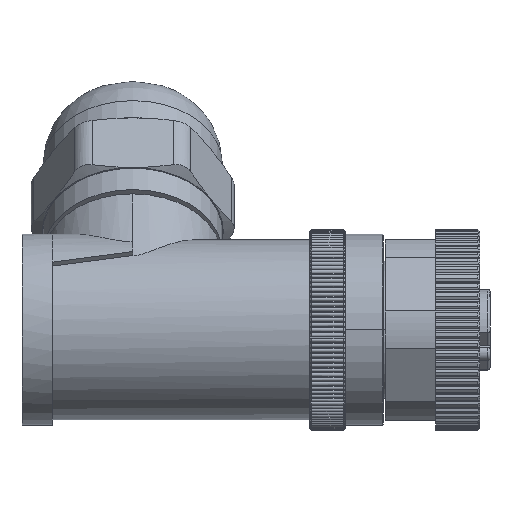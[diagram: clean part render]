
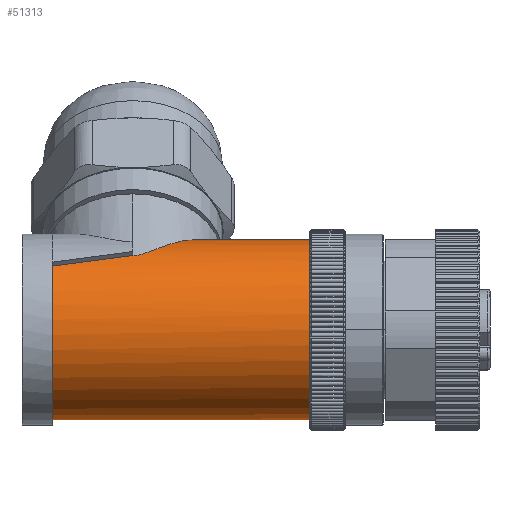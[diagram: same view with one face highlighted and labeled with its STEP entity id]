
A CAD part, left-side view. The second image highlights one B-rep face of the part: STEP entity #51313.
In plain terms, the highlighted cylindrical face has radius 8.95 mm (diameter 17.9 mm), a partial arc.
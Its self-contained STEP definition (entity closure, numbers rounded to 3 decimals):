
#11300=CARTESIAN_POINT('',(0.,16.385,
8.95));
#12212=CARTESIAN_POINT('',(0.,4.9,0.));
#12213=DIRECTION('',(0.,-1.,0.));
#12214=DIRECTION('',(0.,0.,1.));
#12215=AXIS2_PLACEMENT_3D('',#12212,#12213,#12214);
#12217=DIRECTION('',(0.,-1.,0.));
#12218=VECTOR('',#12217,25.6);
#12219=CARTESIAN_POINT('',(0.,30.5,-8.95));
#12220=LINE('',#12219,#12218);
#12221=CARTESIAN_POINT('',(0.,30.5,0.));
#12222=DIRECTION('',(0.,1.,0.));
#12223=DIRECTION('',(0.,0.,-1.));
#12224=AXIS2_PLACEMENT_3D('',#12221,#12222,#12223);
#12226=CARTESIAN_POINT('',(-5.069,22.5,7.376));
#12227=CARTESIAN_POINT('',(-5.524,25.166,
7.063));
#12228=CARTESIAN_POINT('',(-5.944,27.832,
6.713));
#12229=CARTESIAN_POINT('',(-6.329,30.5,6.329));
#12231=CARTESIAN_POINT('',(-5.069,22.5,7.376));
#12232=CARTESIAN_POINT('',(-5.069,22.31,
7.376));
#12233=CARTESIAN_POINT('',(-5.012,21.924,
7.416));
#12234=CARTESIAN_POINT('',(-4.762,21.322,
7.581));
#12235=CARTESIAN_POINT('',(-4.398,20.717,
7.8));
#12236=CARTESIAN_POINT('',(-3.939,20.091,
8.043));
#12237=CARTESIAN_POINT('',(-3.387,19.434,
8.293));
#12238=CARTESIAN_POINT('',(-2.737,18.738,
8.532));
#12239=CARTESIAN_POINT('',(-1.974,17.997,
8.743));
#12240=CARTESIAN_POINT('',(-1.081,17.214,
8.902));
#12241=CARTESIAN_POINT('',(-0.379,16.662,
8.95));
#12242=CARTESIAN_POINT('',(0.,16.385,
8.95));
#12244=DIRECTION('',(0.,-1.,0.));
#12245=VECTOR('',#12244,11.485);
#12246=CARTESIAN_POINT('',(0.,16.385,
8.95));
#12247=LINE('',#12246,#12245);
#37704=VERTEX_POINT('',#11300);
#37711=CARTESIAN_POINT('',(-6.329,30.5,6.329));
#37712=VERTEX_POINT('',#37711);
#37718=CARTESIAN_POINT('',(-5.069,22.5,7.376));
#37720=VERTEX_POINT('',#37718);
#37725=CARTESIAN_POINT('',(0.,30.5,-8.95));
#37726=VERTEX_POINT('',#37725);
#41468=CARTESIAN_POINT('',(0.,4.9,-8.95));
#41469=VERTEX_POINT('',#41468);
#41470=CARTESIAN_POINT('',(0.,4.9,8.95));
#41471=VERTEX_POINT('',#41470);
#51297=CARTESIAN_POINT('',(0.,33.5,0.));
#51298=DIRECTION('',(0.,-1.,0.));
#51299=DIRECTION('',(0.,0.,-1.));
#51300=AXIS2_PLACEMENT_3D('',#51297,#51298,#51299);
#51301=CYLINDRICAL_SURFACE('',#51300,8.95);
#51302=ORIENTED_EDGE('',*,*,#48923,.T.);
#51303=ORIENTED_EDGE('',*,*,#50263,.F.);
#51305=ORIENTED_EDGE('',*,*,#51304,.T.);
#51307=ORIENTED_EDGE('',*,*,#51306,.F.);
#51309=ORIENTED_EDGE('',*,*,#51308,.T.);
#51310=ORIENTED_EDGE('',*,*,#50253,.T.);
#51311=EDGE_LOOP('',(#51302,#51303,#51305,#51307,#51309,#51310));
#51312=FACE_OUTER_BOUND('',#51311,.F.);
#51313=ADVANCED_FACE('',(#51312),#51301,.T.);
#12216=CIRCLE('',#12215,8.95);
#12225=CIRCLE('',#12224,8.95);
#12230=B_SPLINE_CURVE_WITH_KNOTS('',3,(#12226,#12227,#12228,#12229),
.UNSPECIFIED.,.F.,.F.,(4,4),(0.,1.),.UNSPECIFIED.);
#12243=B_SPLINE_CURVE_WITH_KNOTS('',3,(#12231,#12232,#12233,#12234,#12235,
#12236,#12237,#12238,#12239,#12240,#12241,#12242),.UNSPECIFIED.,.F.,.F.,(4,1,1,
1,1,1,1,1,1,4),(0.,0.111,0.222,0.333,
0.444,0.556,0.667,0.778,
0.889,1.),.UNSPECIFIED.);
#48923=EDGE_CURVE('',#41471,#41469,#12216,.T.);
#50253=EDGE_CURVE('',#37704,#41471,#12247,.T.);
#50263=EDGE_CURVE('',#37726,#41469,#12220,.T.);
#51304=EDGE_CURVE('',#37726,#37712,#12225,.T.);
#51306=EDGE_CURVE('',#37720,#37712,#12230,.T.);
#51308=EDGE_CURVE('',#37720,#37704,#12243,.T.);
